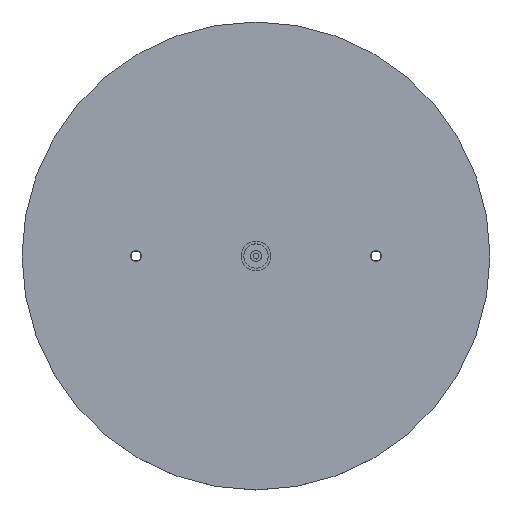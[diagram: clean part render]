
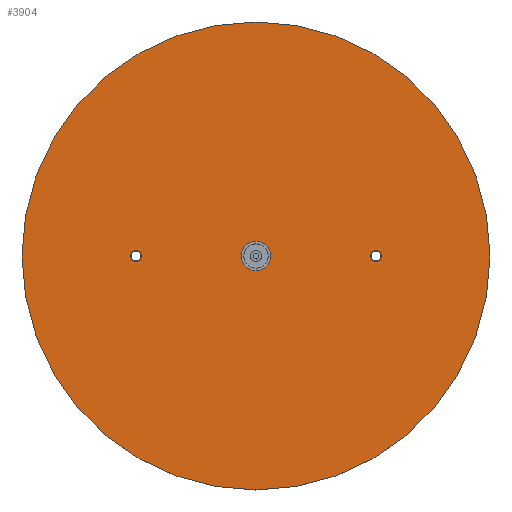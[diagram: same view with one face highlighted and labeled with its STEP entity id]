
A CAD part, top view. The second image highlights one B-rep face of the part: STEP entity #3904.
In plain terms, the highlighted planar face has unit normal (0, 0, 1).
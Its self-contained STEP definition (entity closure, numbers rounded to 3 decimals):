
#181=FACE_BOUND('',#594,.T.);
#182=FACE_BOUND('',#595,.T.);
#183=FACE_BOUND('',#596,.T.);
#246=PLANE('',#4163);
#363=FACE_OUTER_BOUND('',#593,.T.);
#593=EDGE_LOOP('',(#2630));
#594=EDGE_LOOP('',(#2631));
#595=EDGE_LOOP('',(#2632));
#596=EDGE_LOOP('',(#2633));
#1440=CIRCLE('',#4152,0.925);
#1442=CIRCLE('',#4155,2.5);
#1444=CIRCLE('',#4158,0.925);
#1446=CIRCLE('',#4161,39.5);
#1625=VERTEX_POINT('',#5678);
#1627=VERTEX_POINT('',#5684);
#1629=VERTEX_POINT('',#5690);
#1631=VERTEX_POINT('',#5696);
#2019=EDGE_CURVE('',#1625,#1625,#1440,.T.);
#2022=EDGE_CURVE('',#1627,#1627,#1442,.T.);
#2025=EDGE_CURVE('',#1629,#1629,#1444,.T.);
#2028=EDGE_CURVE('',#1631,#1631,#1446,.T.);
#2630=ORIENTED_EDGE('',*,*,#2028,.T.);
#2631=ORIENTED_EDGE('',*,*,#2025,.T.);
#2632=ORIENTED_EDGE('',*,*,#2022,.T.);
#2633=ORIENTED_EDGE('',*,*,#2019,.T.);
#3904=ADVANCED_FACE('',(#363,#181,#182,#183),#246,.T.);
#4152=AXIS2_PLACEMENT_3D('',#5679,#4570,#4571);
#4155=AXIS2_PLACEMENT_3D('',#5685,#4577,#4578);
#4158=AXIS2_PLACEMENT_3D('',#5691,#4584,#4585);
#4161=AXIS2_PLACEMENT_3D('',#5697,#4591,#4592);
#4163=AXIS2_PLACEMENT_3D('',#5701,#4596,#4597);
#4570=DIRECTION('center_axis',(0.,0.,-1.));
#4571=DIRECTION('ref_axis',(1.,0.,0.));
#4577=DIRECTION('center_axis',(0.,0.,-1.));
#4578=DIRECTION('ref_axis',(1.,0.,0.));
#4584=DIRECTION('center_axis',(0.,0.,-1.));
#4585=DIRECTION('ref_axis',(1.,0.,0.));
#4591=DIRECTION('center_axis',(0.,0.,1.));
#4592=DIRECTION('ref_axis',(1.,0.,0.));
#4596=DIRECTION('center_axis',(0.,0.,1.));
#4597=DIRECTION('ref_axis',(1.,0.,0.));
#5678=CARTESIAN_POINT('',(-21.175,0.748,6.837));
#5679=CARTESIAN_POINT('Origin',(-20.25,0.748,6.837));
#5684=CARTESIAN_POINT('',(-2.5,0.748,6.837));
#5685=CARTESIAN_POINT('Origin',(0.,0.748,
6.837));
#5690=CARTESIAN_POINT('',(19.325,0.748,6.837));
#5691=CARTESIAN_POINT('Origin',(20.25,0.748,6.837));
#5696=CARTESIAN_POINT('',(-39.5,0.748,6.837));
#5697=CARTESIAN_POINT('Origin',(0.,0.748,
6.837));
#5701=CARTESIAN_POINT('Origin',(0.,0.748,
6.837));
